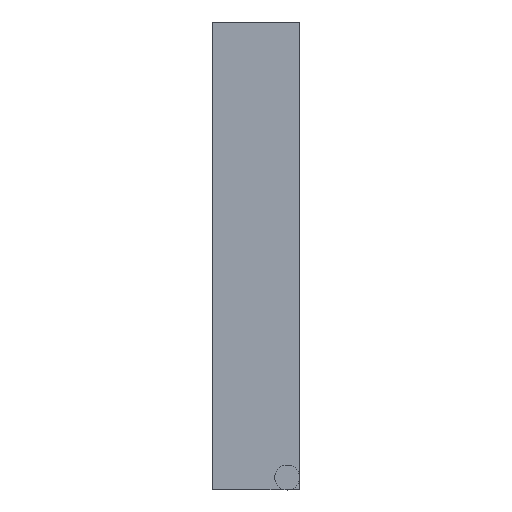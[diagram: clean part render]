
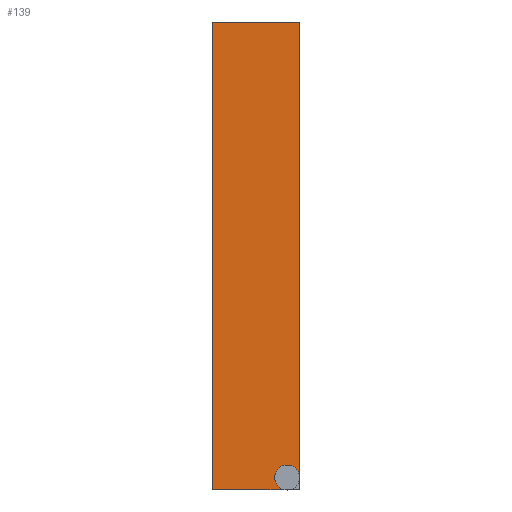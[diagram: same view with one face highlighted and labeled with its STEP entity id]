
A CAD part, left-side view. The second image highlights one B-rep face of the part: STEP entity #139.
In plain terms, the highlighted planar face has unit normal (-1, 0, 0).
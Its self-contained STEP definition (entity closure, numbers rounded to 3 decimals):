
#139=ADVANCED_FACE('',(#231),#233,.T.);
#231=FACE_BOUND('',#232,.T.);
#232=EDGE_LOOP('',(#289,#290,#291,#292,#293));
#233=PLANE('',#234);
#234=AXIS2_PLACEMENT_3D('',#235,#236,#237);
#235=CARTESIAN_POINT('',(-12.,-1.4,0.));
#236=DIRECTION('',(-1.,0.,0.));
#237=DIRECTION('',(0.,0.,1.));
#289=ORIENTED_EDGE('',*,*,#318,.F.);
#290=ORIENTED_EDGE('',*,*,#315,.T.);
#291=ORIENTED_EDGE('',*,*,#314,.T.);
#292=ORIENTED_EDGE('',*,*,#312,.F.);
#293=ORIENTED_EDGE('',*,*,#309,.F.);
#309=EDGE_CURVE('',#338,#340,#341,.T.);
#312=EDGE_CURVE('',#340,#343,#345,.T.);
#314=EDGE_CURVE('',#346,#343,#348,.T.);
#315=EDGE_CURVE('',#349,#346,#350,.T.);
#318=EDGE_CURVE('',#349,#338,#353,.T.);
#338=VERTEX_POINT('',#397);
#340=VERTEX_POINT('',#401);
#341=LINE('',#402,#403);
#343=VERTEX_POINT('',#408);
#345=LINE('',#412,#413);
#346=VERTEX_POINT('',#415);
#348=LINE('',#419,#420);
#349=VERTEX_POINT('',#422);
#350=LINE('',#423,#424);
#353=CIRCLE('',#433,0.4);
#397=CARTESIAN_POINT('',(-12.,-1.,0.));
#401=CARTESIAN_POINT('',(-12.,1.4,0.));
#402=CARTESIAN_POINT('',(-12.,-1.,0.));
#403=VECTOR('',#404,1.);
#404=DIRECTION('',(0.,1.,0.));
#408=CARTESIAN_POINT('',(-12.,1.4,15.));
#412=CARTESIAN_POINT('',(-12.,1.4,0.));
#413=VECTOR('',#414,1.);
#414=DIRECTION('',(0.,0.,1.));
#415=CARTESIAN_POINT('',(-12.,-1.4,15.));
#419=CARTESIAN_POINT('',(-12.,-1.4,15.));
#420=VECTOR('',#421,1.);
#421=DIRECTION('',(0.,1.,0.));
#422=CARTESIAN_POINT('',(-12.,-1.4,0.4));
#423=CARTESIAN_POINT('',(-12.,-1.4,0.4));
#424=VECTOR('',#425,1.);
#425=DIRECTION('',(0.,0.,1.));
#433=AXIS2_PLACEMENT_3D('',#434,#435,#436);
#434=CARTESIAN_POINT('',(-12.,-1.,0.4));
#435=DIRECTION('',(-1.,0.,0.));
#436=DIRECTION('',(0.,-1.,0.));
